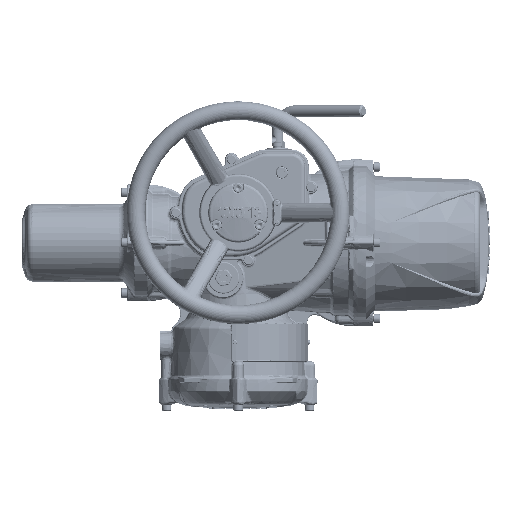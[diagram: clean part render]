
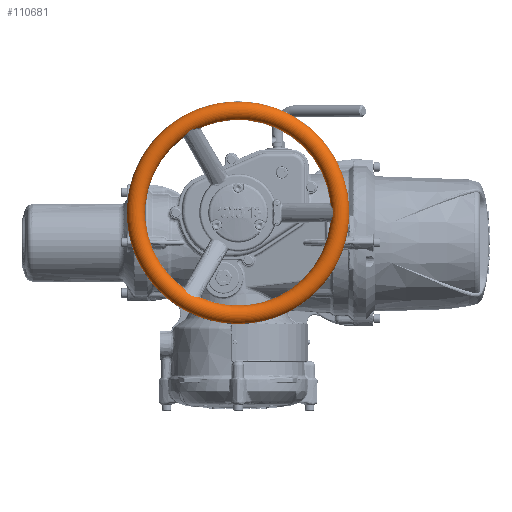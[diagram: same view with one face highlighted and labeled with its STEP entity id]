
A CAD part, top view. The second image highlights one B-rep face of the part: STEP entity #110681.
In plain terms, the highlighted toroidal (fillet/blend) face has major radius 140 mm and minor radius 12.5 mm.
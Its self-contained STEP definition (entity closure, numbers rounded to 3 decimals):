
#3322=TOROIDAL_SURFACE('',#116659,140.,12.5);
#12436=B_SPLINE_CURVE_WITH_KNOTS('',3,(#188951,#188952,#188953,#188954,
#188955,#188956,#188957),.UNSPECIFIED.,.F.,.F.,(4,1,1,1,4),(0.,0.004,
0.007,0.011,0.014),
 .UNSPECIFIED.);
#12437=B_SPLINE_CURVE_WITH_KNOTS('',3,(#188959,#188960,#188961,#188962),
 .UNSPECIFIED.,.F.,.F.,(4,4),(0.,0.006),.UNSPECIFIED.);
#12438=B_SPLINE_CURVE_WITH_KNOTS('',3,(#188964,#188965,#188966,#188967,
#188968,#188969,#188970),.UNSPECIFIED.,.F.,.F.,(4,1,1,1,4),(0.,0.004,
0.007,0.011,0.014),.UNSPECIFIED.);
#12439=B_SPLINE_CURVE_WITH_KNOTS('',3,(#188971,#188972,#188973,#188974,
#188975,#188976,#188977),.UNSPECIFIED.,.F.,.F.,(4,1,1,1,4),(0.,0.004,
0.007,0.011,0.014),
 .UNSPECIFIED.);
#12440=B_SPLINE_CURVE_WITH_KNOTS('',3,(#188979,#188980,#188981,#188982),
 .UNSPECIFIED.,.F.,.F.,(4,4),(0.,0.006),.UNSPECIFIED.);
#12441=B_SPLINE_CURVE_WITH_KNOTS('',3,(#188984,#188985,#188986,#188987,
#188988,#188989,#188990),.UNSPECIFIED.,.F.,.F.,(4,1,1,1,4),(0.,0.004,
0.007,0.011,0.014),.UNSPECIFIED.);
#12442=B_SPLINE_CURVE_WITH_KNOTS('',3,(#188991,#188992,#188993,#188994,
#188995,#188996,#188997),.UNSPECIFIED.,.F.,.F.,(4,1,1,1,4),(0.,0.004,
0.007,0.011,0.014),
 .UNSPECIFIED.);
#12443=B_SPLINE_CURVE_WITH_KNOTS('',3,(#188999,#189000,#189001,#189002),
 .UNSPECIFIED.,.F.,.F.,(4,4),(0.,0.006),
 .UNSPECIFIED.);
#12444=B_SPLINE_CURVE_WITH_KNOTS('',3,(#189004,#189005,#189006,#189007,
#189008,#189009,#189010),.UNSPECIFIED.,.F.,.F.,(4,1,1,1,4),(0.,0.004,
0.007,0.011,0.014),
 .UNSPECIFIED.);
#23975=ORIENTED_EDGE('',*,*,#43994,.T.);
#23976=ORIENTED_EDGE('',*,*,#43995,.T.);
#23977=ORIENTED_EDGE('',*,*,#43996,.T.);
#23978=ORIENTED_EDGE('',*,*,#43838,.F.);
#23979=ORIENTED_EDGE('',*,*,#43997,.T.);
#23980=ORIENTED_EDGE('',*,*,#43998,.T.);
#23981=ORIENTED_EDGE('',*,*,#43999,.T.);
#23982=ORIENTED_EDGE('',*,*,#43857,.F.);
#23983=ORIENTED_EDGE('',*,*,#44000,.T.);
#23984=ORIENTED_EDGE('',*,*,#44001,.T.);
#23985=ORIENTED_EDGE('',*,*,#44002,.T.);
#23986=ORIENTED_EDGE('',*,*,#43844,.F.);
#23987=ORIENTED_EDGE('',*,*,#43902,.T.);
#43838=EDGE_CURVE('',#54191,#54192,#60447,.T.);
#43844=EDGE_CURVE('',#54197,#54198,#60449,.T.);
#43857=EDGE_CURVE('',#54209,#54210,#60452,.T.);
#43902=EDGE_CURVE('',#54244,#54244,#60457,.T.);
#43994=EDGE_CURVE('',#54197,#54309,#12436,.T.);
#43995=EDGE_CURVE('',#54309,#54310,#12437,.T.);
#43996=EDGE_CURVE('',#54310,#54192,#12438,.T.);
#43997=EDGE_CURVE('',#54191,#54311,#12439,.T.);
#43998=EDGE_CURVE('',#54311,#54312,#12440,.T.);
#43999=EDGE_CURVE('',#54312,#54210,#12441,.T.);
#44000=EDGE_CURVE('',#54209,#54313,#12442,.T.);
#44001=EDGE_CURVE('',#54313,#54314,#12443,.T.);
#44002=EDGE_CURVE('',#54314,#54198,#12444,.T.);
#54191=VERTEX_POINT('',#187692);
#54192=VERTEX_POINT('',#187693);
#54197=VERTEX_POINT('',#187719);
#54198=VERTEX_POINT('',#187720);
#54209=VERTEX_POINT('',#187781);
#54210=VERTEX_POINT('',#187782);
#54244=VERTEX_POINT('',#188102);
#54309=VERTEX_POINT('',#188958);
#54310=VERTEX_POINT('',#188963);
#54311=VERTEX_POINT('',#188978);
#54312=VERTEX_POINT('',#188983);
#54313=VERTEX_POINT('',#188998);
#54314=VERTEX_POINT('',#189003);
#60447=CIRCLE('',#116612,127.508);
#60449=CIRCLE('',#116615,127.508);
#60452=CIRCLE('',#116620,127.508);
#60457=CIRCLE('',#116635,152.492);
#64919=EDGE_LOOP('',(#23975,#23976,#23977,#23978,#23979,#23980,#23981,#23982,
#23983,#23984,#23985,#23986));
#64920=EDGE_LOOP('',(#23987));
#70677=FACE_BOUND('',#64919,.T.);
#70678=FACE_BOUND('',#64920,.T.);
#110681=ADVANCED_FACE('',(#70677,#70678),#3322,.T.);
#116612=AXIS2_PLACEMENT_3D('',#187691,#127283,#127284);
#116615=AXIS2_PLACEMENT_3D('',#187718,#127289,#127290);
#116620=AXIS2_PLACEMENT_3D('',#187780,#127299,#127300);
#116635=AXIS2_PLACEMENT_3D('',#188101,#127329,#127330);
#116659=AXIS2_PLACEMENT_3D('',#188950,#127379,#127380);
#127283=DIRECTION('',(0.,0.,1.));
#127284=DIRECTION('',(0.,1.,0.));
#127289=DIRECTION('',(0.,0.,1.));
#127290=DIRECTION('',(0.,1.,0.));
#127299=DIRECTION('',(0.,0.,1.));
#127300=DIRECTION('',(0.,1.,0.));
#127329=DIRECTION('',(0.,0.,1.));
#127330=DIRECTION('',(0.,1.,0.));
#127379=DIRECTION('',(0.,0.,1.));
#127380=DIRECTION('',(0.,1.,0.));
#187691=CARTESIAN_POINT('',(0.,0.,
92.936));
#187692=CARTESIAN_POINT('',(-102.887,-75.316,92.936));
#187693=CARTESIAN_POINT('',(102.887,-75.316,92.936));
#187718=CARTESIAN_POINT('',(0.,0.,
92.936));
#187719=CARTESIAN_POINT('',(116.669,-51.445,92.936));
#187720=CARTESIAN_POINT('',(13.782,126.761,92.936));
#187780=CARTESIAN_POINT('',(0.,0.,
92.936));
#187781=CARTESIAN_POINT('',(-13.782,126.761,92.936));
#187782=CARTESIAN_POINT('',(-116.669,-51.445,92.936));
#188101=CARTESIAN_POINT('',(0.,0.,
92.936));
#188102=CARTESIAN_POINT('',(0.,152.492,92.936));
#188950=CARTESIAN_POINT('',(0.,0.,
92.5));
#188951=CARTESIAN_POINT('',(116.669,-51.445,92.936));
#188952=CARTESIAN_POINT('',(116.43,-52.071,93.913));
#188953=CARTESIAN_POINT('',(116.062,-53.574,95.664));
#188954=CARTESIAN_POINT('',(115.677,-56.313,97.884));
#188955=CARTESIAN_POINT('',(115.339,-59.329,99.649));
#188956=CARTESIAN_POINT('',(114.858,-61.572,100.403));
#188957=CARTESIAN_POINT('',(114.312,-62.627,100.438));
#188958=CARTESIAN_POINT('',(114.312,-62.627,100.438));
#188959=CARTESIAN_POINT('',(114.312,-62.627,100.438));
#188960=CARTESIAN_POINT('',(113.418,-64.357,100.494));
#188961=CARTESIAN_POINT('',(112.444,-66.044,100.494));
#188962=CARTESIAN_POINT('',(111.393,-67.684,100.438));
#188963=CARTESIAN_POINT('',(111.393,-67.684,100.438));
#188964=CARTESIAN_POINT('',(111.393,-67.684,100.438));
#188965=CARTESIAN_POINT('',(110.749,-68.688,100.403));
#188966=CARTESIAN_POINT('',(109.053,-70.218,99.652));
#188967=CARTESIAN_POINT('',(106.596,-72.031,97.873));
#188968=CARTESIAN_POINT('',(104.449,-73.708,95.69));
#188969=CARTESIAN_POINT('',(103.31,-74.795,93.913));
#188970=CARTESIAN_POINT('',(102.887,-75.316,92.936));
#188971=CARTESIAN_POINT('',(-102.887,-75.316,92.936));
#188972=CARTESIAN_POINT('',(-103.31,-74.796,93.913));
#188973=CARTESIAN_POINT('',(-104.427,-73.726,95.664));
#188974=CARTESIAN_POINT('',(-106.607,-72.023,97.884));
#188975=CARTESIAN_POINT('',(-109.05,-70.222,99.649));
#188976=CARTESIAN_POINT('',(-110.752,-68.684,100.403));
#188977=CARTESIAN_POINT('',(-111.393,-67.684,100.438));
#188978=CARTESIAN_POINT('',(-111.393,-67.684,100.438));
#188979=CARTESIAN_POINT('',(-111.393,-67.684,100.438));
#188980=CARTESIAN_POINT('',(-112.444,-66.044,100.494));
#188981=CARTESIAN_POINT('',(-113.418,-64.357,100.494));
#188982=CARTESIAN_POINT('',(-114.312,-62.627,100.438));
#188983=CARTESIAN_POINT('',(-114.312,-62.627,100.438));
#188984=CARTESIAN_POINT('',(-114.312,-62.627,100.438));
#188985=CARTESIAN_POINT('',(-114.86,-61.567,100.403));
#188986=CARTESIAN_POINT('',(-115.337,-59.334,99.652));
#188987=CARTESIAN_POINT('',(-115.679,-56.299,97.873));
#188988=CARTESIAN_POINT('',(-116.057,-53.602,95.69));
#188989=CARTESIAN_POINT('',(-116.43,-52.071,93.913));
#188990=CARTESIAN_POINT('',(-116.669,-51.445,92.936));
#188991=CARTESIAN_POINT('',(-13.782,126.761,92.936));
#188992=CARTESIAN_POINT('',(-13.12,126.867,93.913));
#188993=CARTESIAN_POINT('',(-11.635,127.3,95.664));
#188994=CARTESIAN_POINT('',(-9.07,128.335,97.884));
#188995=CARTESIAN_POINT('',(-6.289,129.551,99.649));
#188996=CARTESIAN_POINT('',(-4.106,130.256,100.403));
#188997=CARTESIAN_POINT('',(-2.919,130.311,100.438));
#188998=CARTESIAN_POINT('',(-2.919,130.311,100.438));
#188999=CARTESIAN_POINT('',(-2.919,130.311,100.438));
#189000=CARTESIAN_POINT('',(-0.974,130.401,100.494));
#189001=CARTESIAN_POINT('',(0.974,130.401,100.494));
#189002=CARTESIAN_POINT('',(2.919,130.311,100.438));
#189003=CARTESIAN_POINT('',(2.919,130.311,100.438));
#189004=CARTESIAN_POINT('',(2.919,130.311,100.438));
#189005=CARTESIAN_POINT('',(4.111,130.256,100.403));
#189006=CARTESIAN_POINT('',(6.284,129.552,99.652));
#189007=CARTESIAN_POINT('',(9.083,128.331,97.873));
#189008=CARTESIAN_POINT('',(11.608,127.309,95.69));
#189009=CARTESIAN_POINT('',(13.12,126.867,93.913));
#189010=CARTESIAN_POINT('',(13.782,126.761,92.936));
